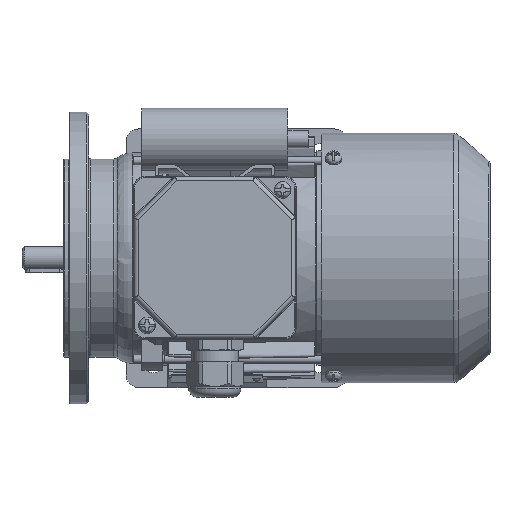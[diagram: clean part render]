
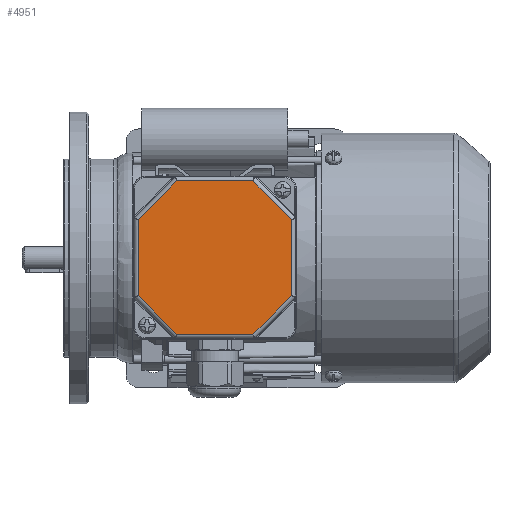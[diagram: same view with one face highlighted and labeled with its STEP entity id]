
A CAD part, top view. The second image highlights one B-rep face of the part: STEP entity #4951.
In plain terms, the highlighted planar face has unit normal (0, 0, 1).
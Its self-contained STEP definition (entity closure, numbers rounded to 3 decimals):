
#4951 = ADVANCED_FACE( '', ( #9900 ), #9901, .T. );
#9900 = FACE_OUTER_BOUND( '', #23116, .T. );
#9901 = PLANE( '', #23117 );
#23116 = EDGE_LOOP( '', ( #37100, #37101, #37102, #37103, #37104, #37105, #37106, #37107 ) );
#23117 = AXIS2_PLACEMENT_3D( '', #37108, #37109, #37110 );
#37100 = ORIENTED_EDGE( '', *, *, #45000, .T. );
#37101 = ORIENTED_EDGE( '', *, *, #44365, .T. );
#37102 = ORIENTED_EDGE( '', *, *, #43779, .T. );
#37103 = ORIENTED_EDGE( '', *, *, #46565, .T. );
#37104 = ORIENTED_EDGE( '', *, *, #46433, .T. );
#37105 = ORIENTED_EDGE( '', *, *, #42698, .T. );
#37106 = ORIENTED_EDGE( '', *, *, #41777, .T. );
#37107 = ORIENTED_EDGE( '', *, *, #46566, .T. );
#37108 = CARTESIAN_POINT( '', ( -39., 39., 12. ) );
#37109 = DIRECTION( '', ( 0., 0., 1. ) );
#37110 = DIRECTION( '', ( 1., 0., 0. ) );
#41777 = EDGE_CURVE( '', #49450, #50174, #50175, .F. );
#42698 = EDGE_CURVE( '', #51754, #49450, #51755, .T. );
#43779 = EDGE_CURVE( '', #53502, #53503, #53504, .F. );
#44365 = EDGE_CURVE( '', #54391, #53502, #54392, .T. );
#45000 = EDGE_CURVE( '', #52920, #54391, #55304, .F. );
#46433 = EDGE_CURVE( '', #55058, #51754, #57149, .F. );
#46565 = EDGE_CURVE( '', #53503, #55058, #57300, .T. );
#46566 = EDGE_CURVE( '', #50174, #52920, #57301, .T. );
#49450 = VERTEX_POINT( '', #59280 );
#50174 = VERTEX_POINT( '', #60917 );
#50175 = LINE( '', #60918, #60919 );
#51754 = VERTEX_POINT( '', #64678 );
#51755 = LINE( '', #64679, #64680 );
#52920 = VERTEX_POINT( '', #67008 );
#53502 = VERTEX_POINT( '', #68221 );
#53503 = VERTEX_POINT( '', #68222 );
#53504 = LINE( '', #68223, #68224 );
#54391 = VERTEX_POINT( '', #70378 );
#54392 = LINE( '', #70379, #70380 );
#55058 = VERTEX_POINT( '', #71748 );
#55304 = LINE( '', #72191, #72192 );
#57149 = LINE( '', #75620, #75621 );
#57300 = LINE( '', #75879, #75880 );
#57301 = LINE( '', #75881, #75882 );
#59280 = CARTESIAN_POINT( '', ( -18.255, -36.825, 12. ) );
#60917 = CARTESIAN_POINT( '', ( 18.255, -36.825, 12. ) );
#60918 = CARTESIAN_POINT( '', ( 19.069, -36.825, 12. ) );
#60919 = VECTOR( '', #78530, 1000. );
#64678 = CARTESIAN_POINT( '', ( -36.825, -18.255, 12. ) );
#64679 = CARTESIAN_POINT( '', ( -17.679, -37.401, 12. ) );
#64680 = VECTOR( '', #79655, 1000. );
#67008 = CARTESIAN_POINT( '', ( 36.825, -18.255, 12. ) );
#68221 = CARTESIAN_POINT( '', ( 18.255, 36.825, 12. ) );
#68222 = CARTESIAN_POINT( '', ( -18.255, 36.825, 12. ) );
#68223 = CARTESIAN_POINT( '', ( -19.069, 36.825, 12. ) );
#68224 = VECTOR( '', #80900, 1000. );
#70378 = CARTESIAN_POINT( '', ( 36.825, 18.255, 12. ) );
#70379 = CARTESIAN_POINT( '', ( 17.679, 37.401, 12. ) );
#70380 = VECTOR( '', #81534, 1000. );
#71748 = CARTESIAN_POINT( '', ( -36.825, 18.255, 12. ) );
#72191 = CARTESIAN_POINT( '', ( 36.825, 19.069, 12. ) );
#72192 = VECTOR( '', #82239, 1000. );
#75620 = CARTESIAN_POINT( '', ( -36.825, -19.069, 12. ) );
#75621 = VECTOR( '', #83724, 1000. );
#75879 = CARTESIAN_POINT( '', ( -37.401, 17.679, 12. ) );
#75880 = VECTOR( '', #83840, 1000. );
#75881 = CARTESIAN_POINT( '', ( 37.401, -17.679, 12. ) );
#75882 = VECTOR( '', #83841, 1000. );
#78530 = DIRECTION( '', ( -1., 0., 0. ) );
#79655 = DIRECTION( '', ( 0.707, -0.707, 0. ) );
#80900 = DIRECTION( '', ( 1., 0., 0. ) );
#81534 = DIRECTION( '', ( -0.707, 0.707, 0. ) );
#82239 = DIRECTION( '', ( 0., -1., 0. ) );
#83724 = DIRECTION( '', ( 0., 1., 0. ) );
#83840 = DIRECTION( '', ( -0.707, -0.707, 0. ) );
#83841 = DIRECTION( '', ( 0.707, 0.707, 0. ) );
